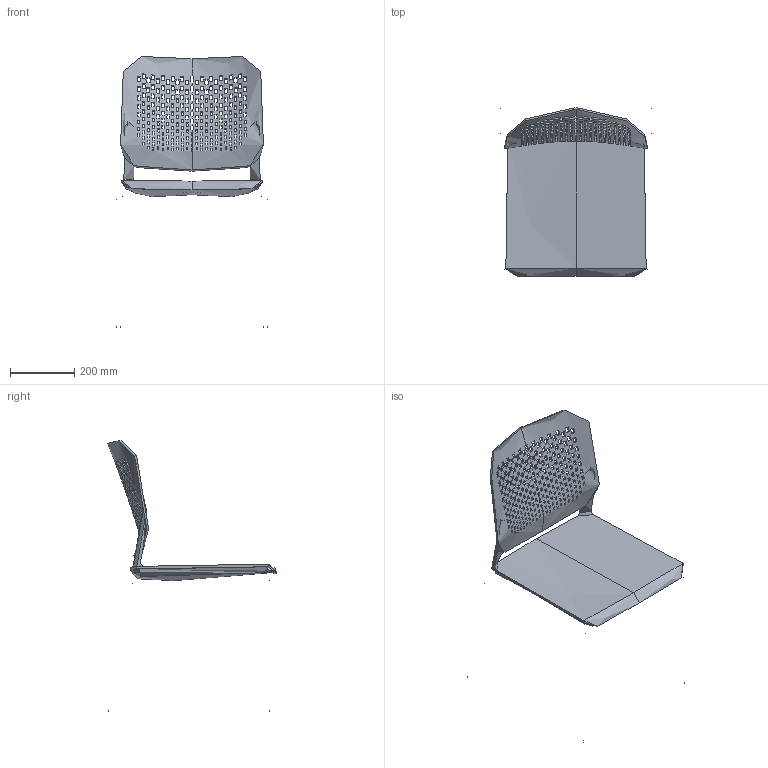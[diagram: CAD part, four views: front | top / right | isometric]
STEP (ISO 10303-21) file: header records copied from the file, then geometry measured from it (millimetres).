
FILE_DESCRIPTION(/* description */ (''),/* implementation_level */ '2;1');
FILE_NAME(/* name */ 'Time 170',/* time_stamp */ '2019-11-22T23:02:33+01:00',/* author */ (''),/* organization */ (''),/* preprocessor_version */ 'ST-DEVELOPER v16.5',/* originating_system */ '',/* authorisation */ '');
FILE_SCHEMA (('AUTOMOTIVE_DESIGN'));
Length unit declared in the file: millimetre
Products named in the file (1): Document
Bounding box: 468 x 523.11 x 840.75 mm (x, y, z)
Surface area: 1131356.7 mm2 (no closed solid volume)
Topology: 0 solids, 8 shells, 1066 faces, 3171 edges, 2083 vertices
Faces by surface type: bspline 586, plane 480
Entity records: 57951 total; most frequent: CARTESIAN_POINT 37597, ORIENTED_EDGE 6298, EDGE_CURVE 3168, B_SPLINE_CURVE_WITH_KNOTS 3113, VERTEX_POINT 2081, EDGE_LOOP 1514, ADVANCED_FACE 1066, FACE_OUTER_BOUND 1066
